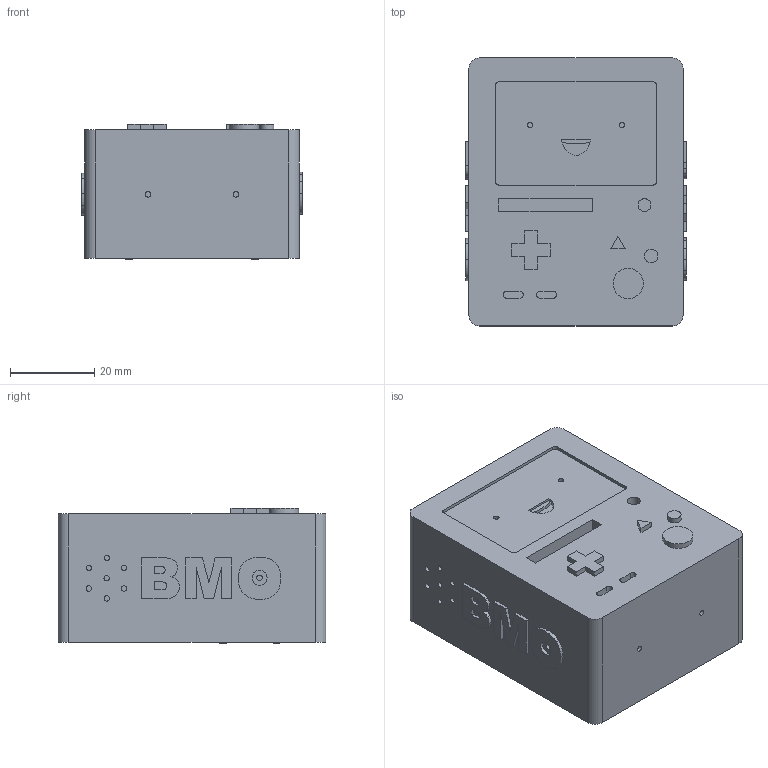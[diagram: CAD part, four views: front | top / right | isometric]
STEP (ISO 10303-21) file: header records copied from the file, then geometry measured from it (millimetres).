
FILE_DESCRIPTION(/* description */ ('Alibre Inc.'),/* implementation_level */ '2;1');
FILE_NAME(/* name */ 'export0',/* time_stamp */ '2012-08-14T17:35:34-05:00',/* author */ (''),/* organization */ (''),/* preprocessor_version */ 'ST-DEVELOPER v14',/* originating_system */ 'Alibre',/* authorisation */ '');
FILE_SCHEMA (('ALIBRE_SCHEMA','CONFIG_CONTROL_DESIGN'));
Length unit declared in the file: centimetre
Products named in the file (1): ID_1
Bounding box: 52.32 x 63.5 x 32 mm (x, y, z)
Volume: 96104.4 mm3; surface area: 15420.6 mm2
Topology: 1 solids, 1 shells, 286 faces, 687 edges, 458 vertices
Faces by surface type: plane 160, cylinder 68, bspline 58
Full cylindrical faces by diameter (mm): 1.25 x2, 1.27 x14, 1.321 x4, 1.546 x4, 3.042 x1, 3.193 x1, 3.556 x1, 3.563 x1, 7.157 x1
Entity records: 13708 total; most frequent: CARTESIAN_POINT 2966, ORIENTED_EDGE 1316, DIRECTION 1165, PERSISTANTTOPOLOGYATTRIBUTE 749, EDGE_CURVE 658, VECTOR 582, CONSTRAINTPAIRUV 565, LINE 522
